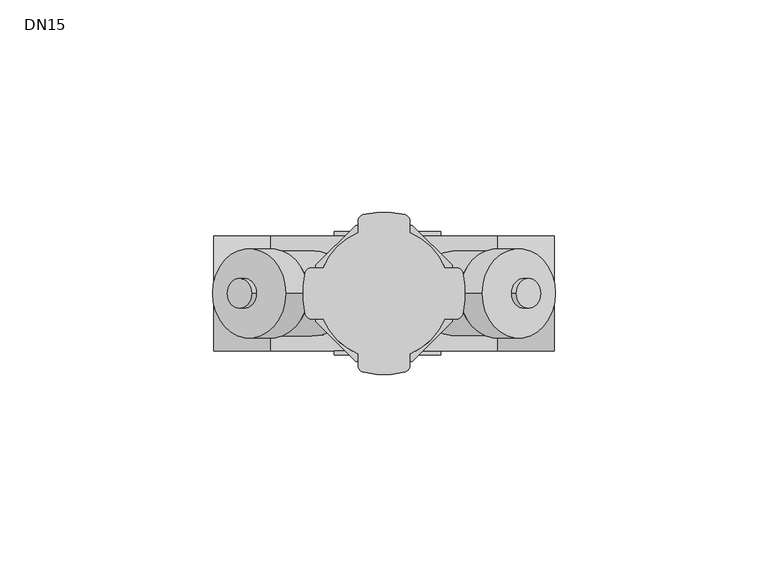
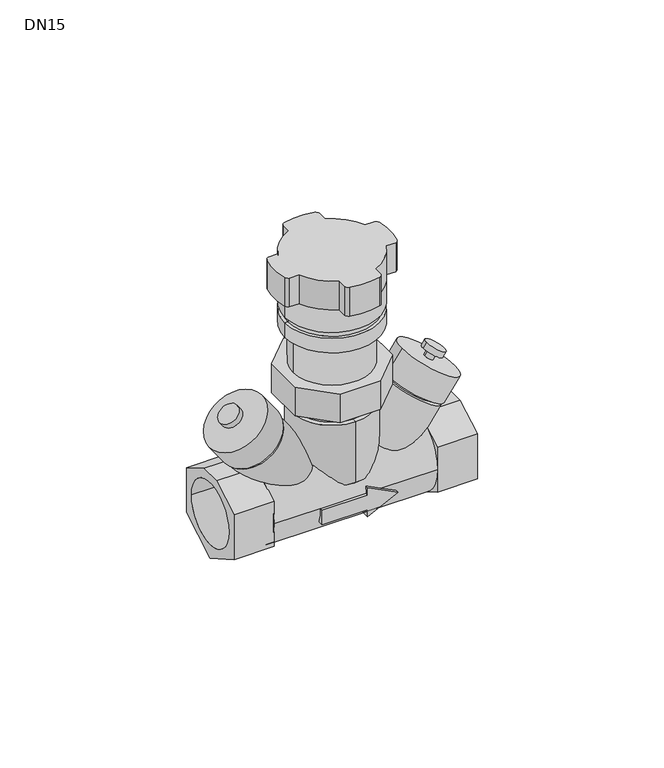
"""IFC4 building model written with IfcOpenShell, lengths in millimetres: valve geometry, 400_56_KOMF_ATZ : DN15."""

from ifc_helpers import new_model, si_unit, point, frame, frame_2d, origin, origin_2d, place, context, project, spatial, polyline, circle_curve, ellipse_curve, trimmed, segment, composite_curve, outline, extrude, source, transform, mapped, element, save
from ifc_brep_helpers import plane_surface, cylinder_surface, revolved_surface, advanced_brep


def dn15_97eb3d88(model_context):
    return source(origin(), model_context, "Body", "SolidModel", [
        advanced_brep(
        [(34.1614142, 0.0, 15.2961177), (17.7784319, 0.0, 26.7676054), (19.4167774, 0.0, 25.6204236), (32.5230687, 0.0, 16.4432996), (22.8246716, 0.0, -0.8944285), (6.4416893, 0.0, 10.5770591), (33.0966531, 0.0, 17.2624631), (19.9903618, 0.0, 26.4395871), (40.3067448, 0.0, 23.2008828), (23.1046544, 0.0, 35.2459162), (30.4768006, 0.0, 30.0838838), (32.9345986, 0.0, 28.3629152), (35.1445527, 0.0, 15.8285084), (17.9424623, 0.0, 27.8735418), (34.0817629, 0.0, 30.0012356), (31.623965, 0.0, 31.7222043), (36.867019, 0.0, 30.4924917), (31.132981, 0.0, 34.5075083), (35.719883, 0.0, 28.8542116), (29.985845, 0.0, 32.8692283)],
        [
            (0, 1, circle_curve(frame((25.969923, 0.0, 21.0318616), z_axis=(0.5735764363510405, 0.0, 0.8191520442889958), x_axis=(-0.8191520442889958, 0.0, 0.5735764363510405)), 9.9999642)),
            (1, 0, circle_curve(frame((25.969923, 0.0, 21.0318616), z_axis=(0.5735764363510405, 0.0, 0.8191520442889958), x_axis=(-0.8191520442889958, 0.0, 0.5735764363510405)), 9.9999642)),
            (2, 3, circle_curve(frame((25.969923, 0.0, 21.0318616), z_axis=(-0.5735764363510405, 0.0, -0.8191520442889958), x_axis=(-0.8191520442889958, 0.0, 0.5735764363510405)), 7.9999137)),
            (3, 2, circle_curve(frame((25.969923, 0.0, 21.0318616), z_axis=(-0.5735764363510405, 0.0, -0.8191520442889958), x_axis=(-0.8191520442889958, 0.0, 0.5735764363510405)), 7.9999137)),
            (4, 5, circle_curve(frame((14.6331805, 0.0, 4.8413153), z_axis=(-0.5735764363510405, 0.0, -0.8191520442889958), x_axis=(-0.8191520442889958, 0.0, 0.5735764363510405)), 9.9999642)),
            (5, 4, circle_curve(frame((14.6331805, 0.0, 4.8413153), z_axis=(-0.5735764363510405, 0.0, -0.8191520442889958), x_axis=(-0.8191520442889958, 0.0, 0.5735764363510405)), 9.9999642)),
            (1, 5),
            (4, 0),
            (6, 7, circle_curve(frame((26.5435075, 0.0, 21.8510251), z_axis=(-0.5735764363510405, 0.0, -0.8191520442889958), x_axis=(-0.8191520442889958, 0.0, 0.5735764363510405)), 7.9999137)),
            (7, 2),
            (3, 6),
            (7, 6, circle_curve(frame((26.5435075, 0.0, 21.8510251), z_axis=(-0.5735764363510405, 0.0, -0.8191520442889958), x_axis=(-0.8191520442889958, 0.0, 0.5735764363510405)), 7.9999137)),
            (8, 9, circle_curve(frame((31.7056996, 0.0, 29.2233995), z_axis=(0.5735764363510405, 0.0, 0.8191520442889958), x_axis=(-0.8191520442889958, 0.0, 0.5735764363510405)), 10.4999374)),
            (9, 8, circle_curve(frame((31.7056996, 0.0, 29.2233995), z_axis=(0.5735764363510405, 0.0, 0.8191520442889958), x_axis=(-0.8191520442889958, 0.0, 0.5735764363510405)), 10.4999374)),
            (10, 11, circle_curve(frame((31.7056996, 0.0, 29.2233995), z_axis=(-0.5735764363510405, 0.0, -0.8191520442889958), x_axis=(-0.8191520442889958, 0.0, 0.5735764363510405)), 1.5002086)),
            (11, 10, circle_curve(frame((31.7056996, 0.0, 29.2233995), z_axis=(-0.5735764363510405, 0.0, -0.8191520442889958), x_axis=(-0.8191520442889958, 0.0, 0.5735764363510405)), 1.5002086)),
            (12, 13, circle_curve(frame((26.5435075, 0.0, 21.8510251), z_axis=(-0.5735764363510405, 0.0, -0.8191520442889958), x_axis=(-0.8191520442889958, 0.0, 0.5735764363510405)), 10.4999374)),
            (13, 12, circle_curve(frame((26.5435075, 0.0, 21.8510251), z_axis=(-0.5735764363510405, 0.0, -0.8191520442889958), x_axis=(-0.8191520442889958, 0.0, 0.5735764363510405)), 10.4999374)),
            (9, 13),
            (12, 8),
            (14, 15, circle_curve(frame((32.852864, 0.0, 30.8617199), z_axis=(-0.5735764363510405, 0.0, -0.8191520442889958), x_axis=(-0.8191520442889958, 0.0, 0.5735764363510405)), 1.5002086)),
            (15, 10),
            (11, 14),
            (15, 14, circle_curve(frame((32.852864, 0.0, 30.8617199), z_axis=(-0.5735764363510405, 0.0, -0.8191520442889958), x_axis=(-0.8191520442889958, 0.0, 0.5735764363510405)), 1.5002086)),
            (16, 17, circle_curve(frame((34.0, 0.0, 32.5), z_axis=(0.5735764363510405, 0.0, 0.8191520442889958), x_axis=(-0.8191520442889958, 0.0, 0.5735764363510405)), 3.4999839)),
            (17, 16, circle_curve(frame((34.0, 0.0, 32.5), z_axis=(0.5735764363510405, 0.0, 0.8191520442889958), x_axis=(-0.8191520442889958, 0.0, 0.5735764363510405)), 3.4999839)),
            (18, 19, circle_curve(frame((32.852864, 0.0, 30.8617199), z_axis=(-0.5735764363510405, 0.0, -0.8191520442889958), x_axis=(-0.8191520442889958, 0.0, 0.5735764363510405)), 3.4999839)),
            (19, 18, circle_curve(frame((32.852864, 0.0, 30.8617199), z_axis=(-0.5735764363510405, 0.0, -0.8191520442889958), x_axis=(-0.8191520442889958, 0.0, 0.5735764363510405)), 3.4999839)),
            (17, 19),
            (18, 16),
        ],
        [
            plane_surface(frame((17.7784319, 0.0, 26.7676054), z_axis=(0.5735764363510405, 0.0, 0.8191520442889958), x_axis=(0.0, 1.0, 0.0))),
            plane_surface(frame((6.4416893, 0.0, 10.5770591), z_axis=(-0.5735764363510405, 0.0, -0.8191520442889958), x_axis=(0.0, -1.0, 0.0))),
            cylinder_surface(frame((14.6331805, 0.0, 4.8413153), z_axis=(0.5735764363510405, 0.0, 0.8191520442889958), x_axis=(-0.8191520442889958, 0.0, 0.5735764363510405)), 9.9999642),
            cylinder_surface(frame((17.939734, 0.0, 9.5635631), z_axis=(0.5735764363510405, 0.0, 0.8191520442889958), x_axis=(-0.8191520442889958, 0.0, 0.5735764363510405)), 7.9999137),
            plane_surface(frame((23.1046544, 0.0, 35.2459162), z_axis=(0.5735764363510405, 0.0, 0.8191520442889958), x_axis=(0.0, 1.0, 0.0))),
            plane_surface(frame((17.9424623, 0.0, 27.8735418), z_axis=(-0.5735764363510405, 0.0, -0.8191520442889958), x_axis=(0.0, -1.0, 0.0))),
            cylinder_surface(frame((26.5435075, 0.0, 21.8510251), z_axis=(0.5735764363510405, 0.0, 0.8191520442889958), x_axis=(-0.8191520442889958, 0.0, 0.5735764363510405)), 10.4999374),
            cylinder_surface(frame((31.7056996, 0.0, 29.2233995), z_axis=(0.5735764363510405, 0.0, 0.8191520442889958), x_axis=(-0.8191520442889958, 0.0, 0.5735764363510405)), 1.5002086),
            plane_surface(frame((31.132981, 0.0, 34.5075083), z_axis=(0.5735764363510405, 0.0, 0.8191520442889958), x_axis=(0.0, 1.0, 0.0))),
            plane_surface(frame((29.985845, 0.0, 32.8692283), z_axis=(-0.5735764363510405, 0.0, -0.8191520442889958), x_axis=(0.0, -1.0, 0.0))),
            cylinder_surface(frame((32.852864, 0.0, 30.8617199), z_axis=(0.5735764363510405, 0.0, 0.8191520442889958), x_axis=(-0.8191520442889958, 0.0, 0.5735764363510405)), 3.4999839),
        ],
        [
            (0, [[1, 2], [3, 4]]),
            (1, [[5, 6]]),
            (2, [[7, -5, 8, -2]]),
            (2, [[-8, -6, -7, -1]]),
            (3, [[9, 10, -4, 11]]),
            (3, [[-3, -10, 12, -11]]),
            (4, [[13, 14], [15, 16]]),
            (5, [[17, 18], [-12, -9]]),
            (6, [[19, -17, 20, -14]]),
            (6, [[-20, -18, -19, -13]]),
            (7, [[21, 22, -16, 23]]),
            (7, [[-15, -22, 24, -23]]),
            (8, [[25, 26]]),
            (9, [[27, 28], [-24, -21]]),
            (10, [[29, -27, 30, -26]]),
            (10, [[-30, -28, -29, -25]]),
        ],
    ),
        advanced_brep(
        [(-34.1614142, 0.0, 15.2961177), (-17.7784319, 0.0, 26.7676054), (-19.4167774, 0.0, 25.6204236), (-32.5230687, 0.0, 16.4432996), (-22.8246716, 0.0, -0.8944285), (-6.4416893, 0.0, 10.5770591), (-33.0966531, 0.0, 17.2624631), (-19.9903618, 0.0, 26.4395871), (-40.3067448, 0.0, 23.2008828), (-23.1046544, 0.0, 35.2459162), (-30.4768006, 0.0, 30.0838838), (-32.9345986, 0.0, 28.3629152), (-35.1445527, 0.0, 15.8285084), (-17.9424623, 0.0, 27.8735418), (-34.0817629, 0.0, 30.0012356), (-31.623965, 0.0, 31.7222043), (-36.867019, 0.0, 30.4924917), (-31.132981, 0.0, 34.5075083), (-35.719883, 0.0, 28.8542116), (-29.985845, 0.0, 32.8692283)],
        [
            (0, 1, circle_curve(frame((-25.969923, 0.0, 21.0318616), z_axis=(-0.5735764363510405, 0.0, 0.8191520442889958), x_axis=(0.8191520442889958, 0.0, 0.5735764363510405)), 9.9999642)),
            (1, 0, circle_curve(frame((-25.969923, 0.0, 21.0318616), z_axis=(-0.5735764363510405, 0.0, 0.8191520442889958), x_axis=(0.8191520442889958, 0.0, 0.5735764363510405)), 9.9999642)),
            (2, 3, circle_curve(frame((-25.969923, 0.0, 21.0318616), z_axis=(0.5735764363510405, 0.0, -0.8191520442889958), x_axis=(0.8191520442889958, 0.0, 0.5735764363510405)), 7.9999137)),
            (3, 2, circle_curve(frame((-25.969923, 0.0, 21.0318616), z_axis=(0.5735764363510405, 0.0, -0.8191520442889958), x_axis=(0.8191520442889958, 0.0, 0.5735764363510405)), 7.9999137)),
            (4, 5, circle_curve(frame((-14.6331805, 0.0, 4.8413153), z_axis=(0.5735764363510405, 0.0, -0.8191520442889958), x_axis=(0.8191520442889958, 0.0, 0.5735764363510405)), 9.9999642)),
            (5, 4, circle_curve(frame((-14.6331805, 0.0, 4.8413153), z_axis=(0.5735764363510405, 0.0, -0.8191520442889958), x_axis=(0.8191520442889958, 0.0, 0.5735764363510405)), 9.9999642)),
            (0, 4),
            (5, 1),
            (6, 3),
            (2, 7),
            (7, 6, circle_curve(frame((-26.5435075, 0.0, 21.8510251), z_axis=(0.5735764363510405, 0.0, -0.8191520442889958), x_axis=(0.8191520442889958, 0.0, 0.5735764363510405)), 7.9999137)),
            (6, 7, circle_curve(frame((-26.5435075, 0.0, 21.8510251), z_axis=(0.5735764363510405, 0.0, -0.8191520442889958), x_axis=(0.8191520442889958, 0.0, 0.5735764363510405)), 7.9999137)),
            (8, 9, circle_curve(frame((-31.7056996, 0.0, 29.2233995), z_axis=(-0.5735764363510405, 0.0, 0.8191520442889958), x_axis=(0.8191520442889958, 0.0, 0.5735764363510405)), 10.4999374)),
            (9, 8, circle_curve(frame((-31.7056996, 0.0, 29.2233995), z_axis=(-0.5735764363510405, 0.0, 0.8191520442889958), x_axis=(0.8191520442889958, 0.0, 0.5735764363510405)), 10.4999374)),
            (10, 11, circle_curve(frame((-31.7056996, 0.0, 29.2233995), z_axis=(0.5735764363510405, 0.0, -0.8191520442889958), x_axis=(0.8191520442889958, 0.0, 0.5735764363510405)), 1.5002086)),
            (11, 10, circle_curve(frame((-31.7056996, 0.0, 29.2233995), z_axis=(0.5735764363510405, 0.0, -0.8191520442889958), x_axis=(0.8191520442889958, 0.0, 0.5735764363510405)), 1.5002086)),
            (12, 13, circle_curve(frame((-26.5435075, 0.0, 21.8510251), z_axis=(0.5735764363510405, 0.0, -0.8191520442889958), x_axis=(0.8191520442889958, 0.0, 0.5735764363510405)), 10.4999374)),
            (13, 12, circle_curve(frame((-26.5435075, 0.0, 21.8510251), z_axis=(0.5735764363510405, 0.0, -0.8191520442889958), x_axis=(0.8191520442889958, 0.0, 0.5735764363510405)), 10.4999374)),
            (8, 12),
            (13, 9),
            (14, 11),
            (10, 15),
            (15, 14, circle_curve(frame((-32.852864, 0.0, 30.8617199), z_axis=(0.5735764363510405, 0.0, -0.8191520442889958), x_axis=(0.8191520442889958, 0.0, 0.5735764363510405)), 1.5002086)),
            (14, 15, circle_curve(frame((-32.852864, 0.0, 30.8617199), z_axis=(0.5735764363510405, 0.0, -0.8191520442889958), x_axis=(0.8191520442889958, 0.0, 0.5735764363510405)), 1.5002086)),
            (16, 17, circle_curve(frame((-34.0, 0.0, 32.5), z_axis=(-0.5735764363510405, 0.0, 0.8191520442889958), x_axis=(0.8191520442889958, 0.0, 0.5735764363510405)), 3.4999839)),
            (17, 16, circle_curve(frame((-34.0, 0.0, 32.5), z_axis=(-0.5735764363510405, 0.0, 0.8191520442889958), x_axis=(0.8191520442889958, 0.0, 0.5735764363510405)), 3.4999839)),
            (18, 19, circle_curve(frame((-32.852864, 0.0, 30.8617199), z_axis=(0.5735764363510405, 0.0, -0.8191520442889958), x_axis=(0.8191520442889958, 0.0, 0.5735764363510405)), 3.4999839)),
            (19, 18, circle_curve(frame((-32.852864, 0.0, 30.8617199), z_axis=(0.5735764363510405, 0.0, -0.8191520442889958), x_axis=(0.8191520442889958, 0.0, 0.5735764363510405)), 3.4999839)),
            (16, 18),
            (19, 17),
        ],
        [
            plane_surface(frame((-17.7784319, 0.0, 26.7676054), z_axis=(-0.5735764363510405, 0.0, 0.8191520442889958), x_axis=(0.0, 1.0, 0.0))),
            plane_surface(frame((-6.4416893, 0.0, 10.5770591), z_axis=(0.5735764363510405, 0.0, -0.8191520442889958), x_axis=(0.0, -1.0, 0.0))),
            cylinder_surface(frame((-14.6331805, 0.0, 4.8413153), z_axis=(-0.5735764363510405, 0.0, 0.8191520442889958), x_axis=(0.8191520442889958, 0.0, 0.5735764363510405)), 9.9999642),
            cylinder_surface(frame((-17.939734, 0.0, 9.5635631), z_axis=(-0.5735764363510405, 0.0, 0.8191520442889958), x_axis=(0.8191520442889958, 0.0, 0.5735764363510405)), 7.9999137),
            plane_surface(frame((-23.1046544, 0.0, 35.2459162), z_axis=(-0.5735764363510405, 0.0, 0.8191520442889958), x_axis=(0.0, 1.0, 0.0))),
            plane_surface(frame((-17.9424623, 0.0, 27.8735418), z_axis=(0.5735764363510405, 0.0, -0.8191520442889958), x_axis=(0.0, -1.0, 0.0))),
            cylinder_surface(frame((-26.5435075, 0.0, 21.8510251), z_axis=(-0.5735764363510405, 0.0, 0.8191520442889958), x_axis=(0.8191520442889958, 0.0, 0.5735764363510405)), 10.4999374),
            cylinder_surface(frame((-31.7056996, 0.0, 29.2233995), z_axis=(-0.5735764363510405, 0.0, 0.8191520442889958), x_axis=(0.8191520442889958, 0.0, 0.5735764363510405)), 1.5002086),
            plane_surface(frame((-31.132981, 0.0, 34.5075083), z_axis=(-0.5735764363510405, 0.0, 0.8191520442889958), x_axis=(0.0, 1.0, 0.0))),
            plane_surface(frame((-29.985845, 0.0, 32.8692283), z_axis=(0.5735764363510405, 0.0, -0.8191520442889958), x_axis=(0.0, -1.0, 0.0))),
            cylinder_surface(frame((-32.852864, 0.0, 30.8617199), z_axis=(-0.5735764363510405, 0.0, 0.8191520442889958), x_axis=(0.8191520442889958, 0.0, 0.5735764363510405)), 3.4999839),
        ],
        [
            (0, [[1, 2], [3, 4]]),
            (1, [[5, 6]]),
            (2, [[-1, 7, -6, 8]]),
            (2, [[-2, -8, -5, -7]]),
            (3, [[9, -3, 10, 11]]),
            (3, [[-9, 12, -10, -4]]),
            (4, [[13, 14], [15, 16]]),
            (5, [[17, 18], [-11, -12]]),
            (6, [[-13, 19, -18, 20]]),
            (6, [[-14, -20, -17, -19]]),
            (7, [[21, -15, 22, 23]]),
            (7, [[-21, 24, -22, -16]]),
            (8, [[25, 26]]),
            (9, [[27, 28], [-23, -24]]),
            (10, [[-25, 29, -28, 30]]),
            (10, [[-26, -30, -27, -29]]),
        ],
    ),
        advanced_brep(
        [(26.8, -13.4999998, -1e-07), (26.8, 13.5000002, -1e-07), (-26.8, -13.4999998, -1e-07), (-26.8, 13.5000002, -1e-07), (8.3504735, -13.4999998, -1e-07), (13.3504733, -13.266499, -2.5), (3.3504733, -11.224972, -7.5), (3.3504733, -12.539936, -5.0), (-11.6495267, -12.539936, -5.0), (-11.6495267, -13.4999998, -1e-07), (-11.6495267, 13.5000002, -1e-07), (-11.6495267, 12.5399365, -5.0), (3.3504733, 12.5399365, -5.0), (3.3504733, 11.2249724, -7.5), (13.3504733, 13.2664994, -2.5), (8.3504735, 13.5000002, -1e-07), (3.3504733, 13.2664993, 2.5), (3.3504733, 13.5000002, -1e-07), (3.3504733, -13.4999998, 0.0), (3.3504733, -13.2664989, 2.5), (3.3504733, -14.5, 0.0), (-11.6495267, -14.5, 0.0), (-11.6495267, -14.5, -5.0), (3.3504733, -14.5, -5.0), (3.3504733, -14.5, -7.5), (13.3504733, -14.5, -2.5), (3.3504733, -14.5, 2.5), (3.3504733, 14.5, 0.0), (3.3504733, 14.5, 2.5), (13.3504733, 14.5, -2.5), (3.3504733, 14.5, -7.5), (3.3504733, 14.5, -5.0), (-11.6495267, 14.5, -5.0), (-11.6495267, 14.5, 0.0)],
        [
            (0, 1, circle_curve(frame((26.8, 2e-07, -1e-07), z_axis=(1.0, 0.0, 0.0), x_axis=(0.0, 1.0, 0.0)), 13.5)),
            (1, 0, circle_curve(frame((26.8, 2e-07, -1e-07), z_axis=(1.0, 0.0, 0.0), x_axis=(0.0, 1.0, 0.0)), 13.5)),
            (2, 3, circle_curve(frame((-26.8, 2e-07, -1e-07), z_axis=(-1.0, 0.0, 0.0), x_axis=(0.0, 1.0, 0.0)), 13.5)),
            (3, 2, circle_curve(frame((-26.8, 2e-07, -1e-07), z_axis=(-1.0, 0.0, 0.0), x_axis=(0.0, 1.0, 0.0)), 13.5)),
            (0, 4),
            (4, 5, ellipse_curve(frame((8.3504735, 2e-07, -1e-07), z_axis=(0.44721359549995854, 0.0, 0.8944271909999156), x_axis=(0.8944271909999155, 0.0, -0.4472135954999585)), 30.1869177, 13.5)),
            (5, 6, ellipse_curve(frame((18.3504731, 2e-07, -1e-07), z_axis=(0.4472135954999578, 0.0, -0.894427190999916), x_axis=(0.894427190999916, 0.0, 0.44721359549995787)), 30.1869177, 13.5)),
            (6, 7, circle_curve(frame((3.3504733, 2e-07, -1e-07), z_axis=(-1.0, 0.0, 0.0), x_axis=(0.0, 1.0, 0.0)), 13.5)),
            (7, 8),
            (8, 9, circle_curve(frame((-11.6495267, 2e-07, -1e-07), z_axis=(-1.0, 0.0, 0.0), x_axis=(0.0, 1.0, 0.0)), 13.5)),
            (9, 2),
            (3, 10),
            (10, 11, circle_curve(frame((-11.6495267, 2e-07, -1e-07), z_axis=(-1.0, 0.0, 0.0), x_axis=(0.0, 1.0, 0.0)), 13.5)),
            (11, 12),
            (12, 13, circle_curve(frame((3.3504733, 2e-07, -1e-07), z_axis=(-1.0, 0.0, 0.0), x_axis=(0.0, 1.0, 0.0)), 13.5)),
            (13, 14, ellipse_curve(frame((18.3504731, 2e-07, -1e-07), z_axis=(0.4472135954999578, 0.0, -0.894427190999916), x_axis=(0.894427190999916, 0.0, 0.44721359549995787)), 30.1869177, 13.5)),
            (14, 15, ellipse_curve(frame((8.3504735, 2e-07, -1e-07), z_axis=(0.44721359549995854, 0.0, 0.8944271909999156), x_axis=(0.8944271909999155, 0.0, -0.4472135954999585)), 30.1869177, 13.5)),
            (15, 1),
            (15, 16, ellipse_curve(frame((8.3504735, 2e-07, -1e-07), z_axis=(0.44721359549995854, 0.0, 0.8944271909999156), x_axis=(0.8944271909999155, 0.0, -0.4472135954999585)), 30.1869177, 13.5)),
            (16, 17, circle_curve(frame((3.3504733, 2e-07, -1e-07), z_axis=(-1.0, 0.0, 0.0), x_axis=(0.0, 1.0, 0.0)), 13.5)),
            (17, 10),
            (9, 18),
            (18, 19, circle_curve(frame((3.3504733, 2e-07, -1e-07), z_axis=(-1.0, 0.0, 0.0), x_axis=(0.0, 1.0, 0.0)), 13.5)),
            (19, 4, ellipse_curve(frame((8.3504735, 2e-07, -1e-07), z_axis=(0.44721359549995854, 0.0, 0.8944271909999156), x_axis=(0.8944271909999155, 0.0, -0.4472135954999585)), 30.1869177, 13.5)),
            (20, 21),
            (21, 22),
            (22, 23),
            (23, 24),
            (24, 25),
            (25, 26),
            (26, 20),
            (27, 28),
            (28, 29),
            (29, 30),
            (30, 31),
            (31, 32),
            (32, 33),
            (33, 27),
            (21, 9),
            (8, 22),
            (32, 11),
            (10, 33),
            (7, 23),
            (31, 12),
            (6, 24),
            (30, 13),
            (5, 25),
            (29, 14),
            (19, 26),
            (28, 16),
            (18, 20),
            (27, 17),
        ],
        [
            plane_surface(frame((26.8, 13.5000002, -1e-07), z_axis=(1.0, 0.0, 0.0), x_axis=(0.0, 0.0, 1.0))),
            plane_surface(frame((-26.8, 13.5000002, -1e-07), z_axis=(-1.0, 0.0, 0.0), x_axis=(0.0, 0.0, -1.0))),
            cylinder_surface(frame((-26.8, 2e-07, -1e-07), z_axis=(1.0, 0.0, 0.0), x_axis=(0.0, 1.0, 0.0)), 13.5),
            plane_surface(frame((-11.6495267, -14.5, 0.0), z_axis=(0.0, -1.0, 0.0), x_axis=(-1.0, 0.0, 0.0))),
            plane_surface(frame((-11.6495267, 14.5, 0.0), z_axis=(0.0, 1.0, 0.0), x_axis=(1.0, 0.0, 0.0))),
            plane_surface(frame((-11.6495267, -14.5, 0.0), z_axis=(-1.0, 0.0, 0.0), x_axis=(0.0, 1.0, 0.0))),
            plane_surface(frame((-11.6495267, -14.5, -5.0), z_axis=(0.0, 0.0, -1.0), x_axis=(0.0, 1.0, 0.0))),
            plane_surface(frame((3.3504733, -14.5, -5.0), z_axis=(-1.0, 0.0, 0.0), x_axis=(0.0, 1.0, 0.0))),
            plane_surface(frame((3.3504733, -14.5, -7.5), z_axis=(0.4472135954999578, 0.0, -0.894427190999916), x_axis=(0.0, 1.0, 0.0))),
            plane_surface(frame((13.3504733, -14.5, -2.5), z_axis=(0.44721359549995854, 0.0, 0.8944271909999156), x_axis=(0.0, 1.0, 0.0))),
            plane_surface(frame((3.3504733, -14.5, 2.5), z_axis=(-1.0, 0.0, 0.0), x_axis=(0.0, 1.0, 0.0))),
            plane_surface(frame((3.3504733, -14.5, 0.0), z_axis=(0.0, 0.0, 1.0), x_axis=(0.0, 1.0, 0.0))),
        ],
        [
            (0, [[1, 2]]),
            (1, [[3, 4]]),
            (2, [[-1, 5, 6, 7, 8, 9, 10, 11, -4, 12, 13, 14, 15, 16, 17, 18]]),
            (2, [[-2, -18, 19, 20, 21, -12, -3, -11, 22, 23, 24, -5]]),
            (3, [[25, 26, 27, 28, 29, 30, 31]]),
            (4, [[32, 33, 34, 35, 36, 37, 38]]),
            (5, [[-26, 39, -10, 40]]),
            (5, [[-37, 41, -13, 42]]),
            (6, [[-27, -40, -9, 43]]),
            (6, [[-36, 44, -14, -41]]),
            (7, [[-28, -43, -8, 45]]),
            (7, [[-35, 46, -15, -44]]),
            (8, [[-29, -45, -7, 47]]),
            (8, [[-34, 48, -16, -46]]),
            (9, [[-30, -47, -6, -24, 49]]),
            (9, [[-33, 50, -19, -17, -48]]),
            (10, [[-31, -49, -23, 51]]),
            (10, [[-32, 52, -20, -50]]),
            (11, [[-25, -51, -22, -39]]),
            (11, [[-38, -42, -21, -52]]),
        ],
    ),
        extrude(outline(polyline([(13.5, 7.7942282), (13.5, -7.7942286), (-4e-07, -15.5884575), (-13.5, -7.7942291), (-13.5, 7.7942286), (-3.6173141, 13.5), (3.6173133, 13.5), (13.5, 7.7942282)]), holes=[composite_curve([segment(trimmed(circle_curve(origin_2d(), 10.65), [point((-10.65, 0.0))], [point((10.65, 0.0))], True, "CARTESIAN"), True, "CONTINUOUS"), segment(trimmed(circle_curve(origin_2d(), 10.65), [point((10.65, 0.0))], [point((-10.65, 0.0))], True, "CARTESIAN"), True, "CONTINUOUS")], self_intersect=False)]), frame((26.8, 0.0, 0.0), z_axis=(1.0, 0.0, 0.0), x_axis=(0.0, 1.0, 0.0)), (0.0, 0.0, 1.0), 13.2),
        extrude(outline(polyline([(13.5, 7.7942282), (13.5, -7.7942286), (-4e-07, -15.5884575), (-13.5, -7.7942291), (-13.5, 7.7942286), (-3.6173141, 13.5), (3.6173133, 13.5), (13.5, 7.7942282)]), holes=[composite_curve([segment(trimmed(circle_curve(origin_2d(), 10.65), [point((-10.65, 0.0))], [point((10.65, 0.0))], True, "CARTESIAN"), True, "CONTINUOUS"), segment(trimmed(circle_curve(origin_2d(), 10.65), [point((10.65, 0.0))], [point((-10.65, 0.0))], True, "CARTESIAN"), True, "CONTINUOUS")], self_intersect=False)]), frame((-40.0, 0.0, 0.0), z_axis=(1.0, 0.0, 0.0), x_axis=(0.0, 1.0, 0.0)), (0.0, 0.0, 1.0), 13.2),
        advanced_brep(
        [(0.0, -13.5, 26.0), (0.0, 13.5, 26.0), (0.0, 13.5, 5.0000003), (0.0, -13.5, 5.0000003), (0.0, -12.0000003, 26.0), (0.0, 12.0000003, 26.0), (0.0, -12.0000003, 34.0), (0.0, 12.0000003, 34.0), (0.0, 0.0, 34.0), (0.0, -10.5000003, 2.0), (0.0, 10.5000003, 2.0), (0.0, 0.0, 2.0)],
        [
            (0, 1, circle_curve(frame((0.0, 0.0, 26.0), z_axis=(0.0, 0.0, -1.0), x_axis=(0.0, 1.0, 0.0)), 13.5)),
            (1, 2),
            (2, 3, circle_curve(frame((0.0, 0.0, 5.0000003), z_axis=(0.0, 0.0, 1.0), x_axis=(0.0, 1.0, 0.0)), 13.5)),
            (3, 0),
            (1, 0, circle_curve(frame((0.0, 0.0, 26.0), z_axis=(0.0, 0.0, -1.0), x_axis=(0.0, 1.0, 0.0)), 13.5)),
            (3, 2, circle_curve(frame((0.0, 0.0, 5.0000003), z_axis=(0.0, 0.0, 1.0), x_axis=(0.0, 1.0, 0.0)), 13.5)),
            (4, 5, circle_curve(frame((0.0, 0.0, 26.0), z_axis=(0.0, 0.0, -1.0), x_axis=(0.0, 1.0, 0.0)), 12.0000003)),
            (5, 1),
            (0, 4),
            (5, 4, circle_curve(frame((0.0, 0.0, 26.0), z_axis=(0.0, 0.0, -1.0), x_axis=(0.0, 1.0, 0.0)), 12.0000003)),
            (6, 7, circle_curve(frame((0.0, 0.0, 34.0), z_axis=(0.0, 0.0, -1.0), x_axis=(0.0, 1.0, 0.0)), 12.0000003)),
            (7, 5),
            (4, 6),
            (7, 6, circle_curve(frame((0.0, 0.0, 34.0), z_axis=(0.0, 0.0, -1.0), x_axis=(0.0, 1.0, 0.0)), 12.0000003)),
            (8, 7),
            (6, 8),
            (9, 10, circle_curve(frame((0.0, 0.0, 2.0), z_axis=(0.0, 0.0, -1.0), x_axis=(0.0, 1.0, 0.0)), 10.5000003)),
            (10, 11),
            (11, 9),
            (10, 9, circle_curve(frame((0.0, 0.0, 2.0), z_axis=(0.0, 0.0, -1.0), x_axis=(0.0, 1.0, 0.0)), 10.5000003)),
            (2, 10),
            (9, 3),
        ],
        [
            cylinder_surface(frame((0.0, 0.0, 1440.3704342), z_axis=(0.0, 0.0, 1.0), x_axis=(0.0, 1.0, 0.0)), 13.5),
            plane_surface(frame((0.0, 0.0, 26.0), z_axis=(0.0, 0.0, 1.0), x_axis=(0.0, 1.0, 0.0))),
            cylinder_surface(frame((0.0, 0.0, 1440.3704342), z_axis=(0.0, 0.0, 1.0), x_axis=(0.0, 1.0, 0.0)), 12.0000003),
            plane_surface(frame((0.0, 0.0, 34.0), z_axis=(0.0, 0.0, 1.0), x_axis=(0.0, 1.0, 0.0))),
            plane_surface(frame((0.0, 0.0, 2.0), z_axis=(0.0, 0.0, -1.0), x_axis=(0.0, 1.0, 0.0))),
            revolved_surface(polyline([(0.0, 10.5000003, 2.0), (0.0, 13.5, 5.0000003)]), (0.0, 0.0, 1440.3704342), (0.0, 0.0, 1.0)),
        ],
        [
            (0, [[1, 2, 3, 4]]),
            (0, [[5, -4, 6, -2]]),
            (1, [[7, 8, -1, 9]]),
            (1, [[10, -9, -5, -8]]),
            (2, [[11, 12, -7, 13]]),
            (2, [[14, -13, -10, -12]]),
            (3, [[15, -11, 16]]),
            (3, [[-16, -14, -15]]),
            (4, [[17, 18, 19]]),
            (4, [[20, -19, -18]]),
            (5, [[-3, 21, -17, 22]]),
            (5, [[-6, -22, -20, -21]]),
        ],
    ),
        extrude(outline(composite_curve([segment(polyline([(-5.999999, 14.2916074), (-5.999999, 17.5000013)]), True, "CONTINUOUS"), segment(trimmed(circle_curve(frame_2d((-4.3362017, 16.836203)), 1.7913262), [point((-5.999999, 17.5000013))], [point((-5.0, 18.5000003))], False, "CARTESIAN"), True, "CONTINUOUS"), segment(trimmed(circle_curve(frame_2d((0.0, -1.7021075)), 20.8116592), [point((-5.0, 18.5000003))], [point((5.0, 18.5000003))], False, "CARTESIAN"), True, "CONTINUOUS"), segment(trimmed(circle_curve(frame_2d((4.177133, 16.6771324)), 1.9999894), [point((5.0, 18.5000003))], [point((6.000001, 17.4999994))], False, "CARTESIAN"), True, "CONTINUOUS"), segment(polyline([(6.000001, 17.4999994), (6.000001, 14.2916074)]), True, "CONTINUOUS"), segment(trimmed(circle_curve(frame_2d((1e-06, 1e-06)), 15.5000005), [point((6.000001, 14.2916074))], [point((14.2916074, 6.000001))], False, "CARTESIAN"), True, "CONTINUOUS"), segment(polyline([(14.2916074, 6.000001), (17.5, 6.000001)]), True, "CONTINUOUS"), segment(trimmed(circle_curve(frame_2d((16.6771331, 4.177133)), 1.9999894), [point((17.5, 6.000001))], [point((18.500001, 5.0))], False, "CARTESIAN"), True, "CONTINUOUS"), segment(trimmed(circle_curve(frame_2d((-1.7021075, 0.0)), 20.8116599), [point((18.500001, 5.0))], [point((18.500001, -5.0))], False, "CARTESIAN"), True, "CONTINUOUS"), segment(trimmed(circle_curve(frame_2d((16.8362037, -4.3362017)), 1.7913262), [point((18.500001, -5.0))], [point((17.500002, -5.999999))], False, "CARTESIAN"), True, "CONTINUOUS"), segment(polyline([(17.500002, -5.999999), (14.2916074, -5.999999)]), True, "CONTINUOUS"), segment(trimmed(circle_curve(frame_2d((1e-06, 1e-06)), 15.5000005), [point((14.2916074, -5.999999))], [point((6.000001, -14.2916054))], False, "CARTESIAN"), True, "CONTINUOUS"), segment(polyline([(6.000001, -14.2916054), (6.000001, -17.4999974)]), True, "CONTINUOUS"), segment(trimmed(circle_curve(frame_2d((4.177133, -16.6771304)), 1.9999894), [point((6.000001, -17.4999974))], [point((5.0, -18.4999984))], False, "CARTESIAN"), True, "CONTINUOUS"), segment(trimmed(circle_curve(frame_2d((0.0, 1.7021094)), 20.8116592), [point((5.0, -18.4999984))], [point((-5.0, -18.4999984))], False, "CARTESIAN"), True, "CONTINUOUS"), segment(trimmed(circle_curve(frame_2d((-4.3362017, -16.8362011)), 1.7913262), [point((-5.0, -18.4999984))], [point((-5.999999, -17.4999994))], False, "CARTESIAN"), True, "CONTINUOUS"), segment(polyline([(-5.999999, -17.4999994), (-5.999999, -14.2916054)]), True, "CONTINUOUS"), segment(trimmed(circle_curve(frame_2d((1e-06, 1e-06)), 15.5000005), [point((-5.999999, -14.2916054))], [point((-14.2916054, -5.999999))], False, "CARTESIAN"), True, "CONTINUOUS"), segment(polyline([(-14.2916054, -5.999999), (-17.5, -5.999999)]), True, "CONTINUOUS"), segment(trimmed(circle_curve(frame_2d((-16.8362017, -4.3362017)), 1.7913262), [point((-17.5, -5.999999))], [point((-18.499999, -5.0))], False, "CARTESIAN"), True, "CONTINUOUS"), segment(trimmed(circle_curve(frame_2d((1.7021094, 0.0)), 20.8116599), [point((-18.499999, -5.0))], [point((-18.499999, 5.0))], False, "CARTESIAN"), True, "CONTINUOUS"), segment(trimmed(circle_curve(frame_2d((-16.6771311, 4.177133)), 1.9999894), [point((-18.499999, 5.0))], [point((-17.4999981, 6.000001))], False, "CARTESIAN"), True, "CONTINUOUS"), segment(polyline([(-17.4999981, 6.000001), (-14.2916054, 6.000001)]), True, "CONTINUOUS"), segment(trimmed(circle_curve(frame_2d((1e-06, 1e-06)), 15.5000005), [point((-14.2916054, 6.000001))], [point((-5.999999, 14.2916074))], False, "CARTESIAN"), True, "CONTINUOUS")], self_intersect=False)), frame((0.0, 0.0, 67.4999996), z_axis=(0.0, 0.0, 1.0), x_axis=(1.0, 0.0, 0.0)), (0.0, 0.0, 1.0), 10.0000028),
        advanced_brep(
        [(15.5000005, 0.0, 59.6249979), (-15.5000005, 0.0, 59.6249979), (-15.5000005, 0.0, 67.4999996), (15.5000005, 0.0, 67.4999996), (14.4686689, 0.0, 59.6249979), (-14.4686689, 0.0, 59.6249979), (14.4686689, 0.0, 57.6250019), (-14.4686689, 0.0, 57.6250019), (15.5000005, 0.0, 57.6250019), (-15.5000005, 0.0, 57.6250019), (15.5000005, 0.0, 52.6401003), (-15.5000005, 0.0, 52.6401003), (12.7500002, 0.0, 52.6401003), (-12.7500002, 0.0, 52.6401003), (12.7500002, 0.0, 39.5000008), (-12.7500002, 0.0, 39.5000008), (0.0, 0.0, 39.5000008), (0.0, 0.0, 67.4999996)],
        [
            (0, 1, circle_curve(frame((0.0, 0.0, 59.6249979), z_axis=(0.0, 0.0, 1.0), x_axis=(-1.0, 0.0, 0.0)), 15.5000005)),
            (1, 2),
            (2, 3, circle_curve(frame((0.0, 0.0, 67.4999996), z_axis=(0.0, 0.0, -1.0), x_axis=(-1.0, 0.0, 0.0)), 15.5000005)),
            (3, 0),
            (1, 0, circle_curve(frame((0.0, 0.0, 59.6249979), z_axis=(0.0, 0.0, 1.0), x_axis=(-1.0, 0.0, 0.0)), 15.5000005)),
            (3, 2, circle_curve(frame((0.0, 0.0, 67.4999996), z_axis=(0.0, 0.0, -1.0), x_axis=(-1.0, 0.0, 0.0)), 15.5000005)),
            (4, 5, circle_curve(frame((0.0, 0.0, 59.6249979), z_axis=(0.0, 0.0, 1.0), x_axis=(-1.0, 0.0, 0.0)), 14.4686689)),
            (5, 1),
            (0, 4),
            (5, 4, circle_curve(frame((0.0, 0.0, 59.6249979), z_axis=(0.0, 0.0, 1.0), x_axis=(-1.0, 0.0, 0.0)), 14.4686689)),
            (6, 7, circle_curve(frame((0.0, 0.0, 57.6250019), z_axis=(0.0, 0.0, 1.0), x_axis=(-1.0, 0.0, 0.0)), 14.4686689)),
            (7, 5),
            (4, 6),
            (7, 6, circle_curve(frame((0.0, 0.0, 57.6250019), z_axis=(0.0, 0.0, 1.0), x_axis=(-1.0, 0.0, 0.0)), 14.4686689)),
            (8, 9, circle_curve(frame((0.0, 0.0, 57.6250019), z_axis=(0.0, 0.0, 1.0), x_axis=(-1.0, 0.0, 0.0)), 15.5000005)),
            (9, 7),
            (6, 8),
            (9, 8, circle_curve(frame((0.0, 0.0, 57.6250019), z_axis=(0.0, 0.0, 1.0), x_axis=(-1.0, 0.0, 0.0)), 15.5000005)),
            (10, 11, circle_curve(frame((0.0, 0.0, 52.6401003), z_axis=(0.0, 0.0, 1.0), x_axis=(-1.0, 0.0, 0.0)), 15.5000005)),
            (11, 9),
            (8, 10),
            (11, 10, circle_curve(frame((0.0, 0.0, 52.6401003), z_axis=(0.0, 0.0, 1.0), x_axis=(-1.0, 0.0, 0.0)), 15.5000005)),
            (12, 13, circle_curve(frame((0.0, 0.0, 52.6401003), z_axis=(0.0, 0.0, 1.0), x_axis=(-1.0, 0.0, 0.0)), 12.7500002)),
            (13, 11),
            (10, 12),
            (13, 12, circle_curve(frame((0.0, 0.0, 52.6401003), z_axis=(0.0, 0.0, 1.0), x_axis=(-1.0, 0.0, 0.0)), 12.7500002)),
            (14, 15, circle_curve(frame((0.0, 0.0, 39.5000008), z_axis=(0.0, 0.0, 1.0), x_axis=(-1.0, 0.0, 0.0)), 12.7500002)),
            (15, 13),
            (12, 14),
            (15, 14, circle_curve(frame((0.0, 0.0, 39.5000008), z_axis=(0.0, 0.0, 1.0), x_axis=(-1.0, 0.0, 0.0)), 12.7500002)),
            (16, 15),
            (14, 16),
            (2, 17),
            (17, 3),
        ],
        [
            cylinder_surface(frame((0.0, 0.0, 37.6250008), z_axis=(0.0, 0.0, -1.0), x_axis=(-1.0, 0.0, 0.0)), 15.5000005),
            plane_surface(frame((0.0, 0.0, 59.6249979), z_axis=(0.0, 0.0, -1.0), x_axis=(-1.0, 0.0, 0.0))),
            cylinder_surface(frame((0.0, 0.0, 37.6250008), z_axis=(0.0, 0.0, -1.0), x_axis=(-1.0, 0.0, 0.0)), 14.4686689),
            plane_surface(frame((0.0, 0.0, 57.6250019), z_axis=(0.0, 0.0, 1.0), x_axis=(-1.0, 0.0, 0.0))),
            plane_surface(frame((0.0, 0.0, 52.6401003), z_axis=(0.0, 0.0, -1.0), x_axis=(-1.0, 0.0, 0.0))),
            cylinder_surface(frame((0.0, 0.0, 37.6250008), z_axis=(0.0, 0.0, -1.0), x_axis=(-1.0, 0.0, 0.0)), 12.7500002),
            plane_surface(frame((0.0, 0.0, 39.5000008), z_axis=(0.0, 0.0, -1.0), x_axis=(-1.0, 0.0, 0.0))),
            plane_surface(frame((0.0, 0.0, 67.4999996), z_axis=(0.0, 0.0, 1.0), x_axis=(-1.0, 0.0, 0.0))),
        ],
        [
            (0, [[1, 2, 3, 4]]),
            (0, [[5, -4, 6, -2]]),
            (1, [[7, 8, -1, 9]]),
            (1, [[10, -9, -5, -8]]),
            (2, [[11, 12, -7, 13]]),
            (2, [[14, -13, -10, -12]]),
            (3, [[15, 16, -11, 17]]),
            (3, [[18, -17, -14, -16]]),
            (0, [[19, 20, -15, 21]]),
            (0, [[22, -21, -18, -20]]),
            (4, [[23, 24, -19, 25]]),
            (4, [[26, -25, -22, -24]]),
            (5, [[27, 28, -23, 29]]),
            (5, [[30, -29, -26, -28]]),
            (6, [[31, -27, 32]]),
            (6, [[-32, -30, -31]]),
            (7, [[-3, 33, 34]]),
            (7, [[-6, -34, -33]]),
        ],
    ),
        extrude(outline(polyline([(16.0000006, 6.6274173), (16.0000006, -6.6274173), (6.6274173, -15.9999999), (-6.6274173, -15.9999999), (-16.0000006, -6.6274173), (-16.0000006, 6.6274173), (-6.6274173, 15.9999999), (6.6274173, 15.9999999), (16.0000006, 6.6274173)])), frame((0.0, 0.0, 29.5000003), z_axis=(0.0, 0.0, 1.0), x_axis=(1.0, 0.0, 0.0)), (0.0, 0.0, 1.0), 10.0000005),
    ])


if __name__ == "__main__":
    model = new_model("IFC4")
    model_context = context("Model", 3, world=origin())
    ifc_project = project(units=[si_unit("LENGTHUNIT", "METRE", prefix="MILLI")], contexts=[model_context])
    site = spatial("IfcSite", under=ifc_project)
    building = spatial("IfcBuilding", under=site)
    placement = place(None, origin())
    dn15_shape = dn15_97eb3d88(model_context)
    element("IfcValve", 1, ObjectType="400_56_KOMF_ATZ : DN15", at=placement, inside=building, context=model_context, shape_type="MappedRepresentation", body=[
        mapped(dn15_shape, transform((0.0, 0.0, 0.0), x_axis=(1.0, 0.0, 0.0), y_axis=(0.0, 1.0, 0.0), z_axis=(0.0, 0.0, 1.0))),
    ])
    save(model, "model.ifc")
